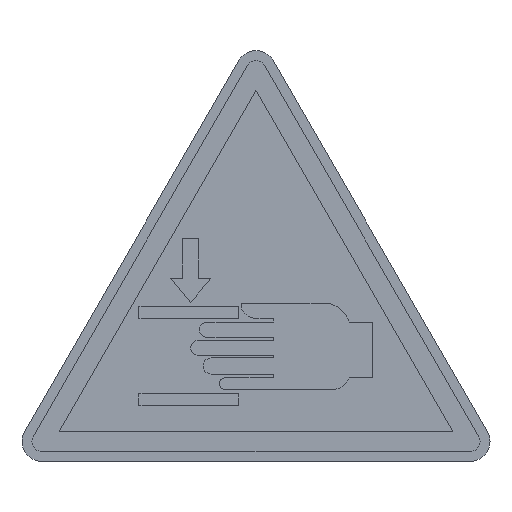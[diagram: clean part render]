
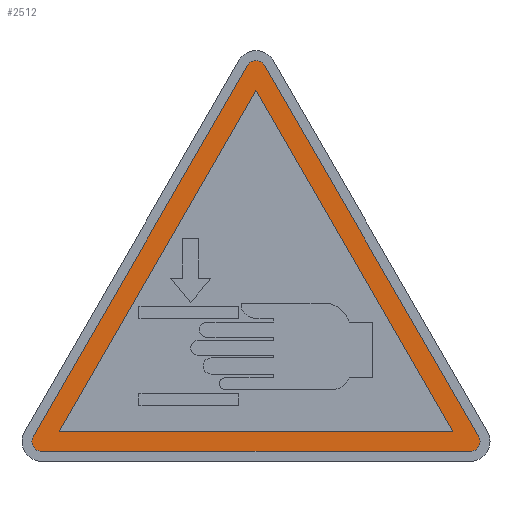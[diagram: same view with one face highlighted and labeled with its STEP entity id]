
A CAD part, top view. The second image highlights one B-rep face of the part: STEP entity #2512.
In plain terms, the highlighted planar face has unit normal (0, 0, 1).
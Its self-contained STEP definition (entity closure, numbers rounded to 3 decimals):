
#15 = DIRECTION ( 'NONE',  ( 1., 0., 0. ) ) ;
#37 = CARTESIAN_POINT ( 'NONE',  ( 19.804, 3., 0.22 ) ) ;
#87 = VECTOR ( 'NONE', #1439, 1000. ) ;
#97 = EDGE_CURVE ( 'NONE', #752, #2294, #1197, .T. ) ;
#133 = ORIENTED_EDGE ( 'NONE', *, *, #561, .F. ) ;
#136 = AXIS2_PLACEMENT_3D ( 'NONE', #1608, #2797, #1100 ) ;
#148 = CARTESIAN_POINT ( 'NONE',  ( 0., 39.301, 0.22 ) ) ;
#150 = EDGE_LOOP ( 'NONE', ( #2116, #2866, #2333, #2376, #309, #934, #1315 ) ) ;
#205 = CARTESIAN_POINT ( 'NONE',  ( -21.536, 1., 0.22 ) ) ;
#234 = LINE ( 'NONE', #653, #1070 ) ;
#271 = EDGE_CURVE ( 'NONE', #2827, #1780, #765, .T. ) ;
#309 = ORIENTED_EDGE ( 'NONE', *, *, #2747, .T. ) ;
#421 = DIRECTION ( 'NONE',  ( 1., 0., 0. ) ) ;
#428 = CARTESIAN_POINT ( 'NONE',  ( 21.536, 1., 0.22 ) ) ;
#454 = EDGE_CURVE ( 'NONE', #647, #2367, #1473, .T. ) ;
#471 = ORIENTED_EDGE ( 'NONE', *, *, #97, .F. ) ;
#485 = DIRECTION ( 'NONE',  ( -0.5, -0.866, 0. ) ) ;
#502 = AXIS2_PLACEMENT_3D ( 'NONE', #148, #2043, #421 ) ;
#510 = DIRECTION ( 'NONE',  ( 1., 0., 0. ) ) ;
#515 = CARTESIAN_POINT ( 'NONE',  ( 22.402, 2.5, 0.22 ) ) ;
#524 = CARTESIAN_POINT ( 'NONE',  ( 0., 37.301, 0.22 ) ) ;
#548 = VERTEX_POINT ( 'NONE', #1186 ) ;
#561 = EDGE_CURVE ( 'NONE', #2294, #1170, #1506, .T. ) ;
#647 = VERTEX_POINT ( 'NONE', #2964 ) ;
#653 = CARTESIAN_POINT ( 'NONE',  ( -0.866, 39.801, 0.22 ) ) ;
#660 = CIRCLE ( 'NONE', #1963, 1. ) ;
#732 = VERTEX_POINT ( 'NONE', #1679 ) ;
#752 = VERTEX_POINT ( 'NONE', #1637 ) ;
#760 = EDGE_LOOP ( 'NONE', ( #133, #471, #2007 ) ) ;
#764 = DIRECTION ( 'NONE',  ( -0.5, 0.866, 0. ) ) ;
#765 = CIRCLE ( 'NONE', #1622, 1. ) ;
#881 = VECTOR ( 'NONE', #1835, 1000. ) ;
#918 = EDGE_CURVE ( 'NONE', #1170, #752, #2895, .T. ) ;
#934 = ORIENTED_EDGE ( 'NONE', *, *, #1384, .T. ) ;
#1031 = CARTESIAN_POINT ( 'NONE',  ( -21.536, 2., 0.22 ) ) ;
#1070 = VECTOR ( 'NONE', #1883, 1000. ) ;
#1100 = DIRECTION ( 'NONE',  ( 1., 0., 0. ) ) ;
#1147 = EDGE_CURVE ( 'NONE', #732, #647, #1721, .T. ) ;
#1170 = VERTEX_POINT ( 'NONE', #2912 ) ;
#1181 = VECTOR ( 'NONE', #764, 1000. ) ;
#1186 = CARTESIAN_POINT ( 'NONE',  ( -22.402, 2.5, 0.22 ) ) ;
#1197 = LINE ( 'NONE', #524, #1762 ) ;
#1236 = DIRECTION ( 'NONE',  ( 1., 0., 0. ) ) ;
#1315 = ORIENTED_EDGE ( 'NONE', *, *, #1147, .T. ) ;
#1352 = CARTESIAN_POINT ( 'NONE',  ( 0., 39.301, 0.22 ) ) ;
#1384 = EDGE_CURVE ( 'NONE', #2052, #732, #2908, .T. ) ;
#1439 = DIRECTION ( 'NONE',  ( -0.5, 0.866, 0. ) ) ;
#1473 = CIRCLE ( 'NONE', #3060, 1. ) ;
#1506 = LINE ( 'NONE', #2449, #2068 ) ;
#1563 = DIRECTION ( 'NONE',  ( 0., 0., 1. ) ) ;
#1599 = CARTESIAN_POINT ( 'NONE',  ( -21.536, 1., 0.22 ) ) ;
#1608 = CARTESIAN_POINT ( 'NONE',  ( 21.536, 2., 0.22 ) ) ;
#1622 = AXIS2_PLACEMENT_3D ( 'NONE', #1031, #1688, #1236 ) ;
#1637 = CARTESIAN_POINT ( 'NONE',  ( 0., 37.301, 0.22 ) ) ;
#1679 = CARTESIAN_POINT ( 'NONE',  ( 22.402, 2.5, 0.22 ) ) ;
#1688 = DIRECTION ( 'NONE',  ( 0., 0., 1. ) ) ;
#1721 = LINE ( 'NONE', #515, #87 ) ;
#1762 = VECTOR ( 'NONE', #485, 1000. ) ;
#1780 = VERTEX_POINT ( 'NONE', #1599 ) ;
#1807 = FACE_OUTER_BOUND ( 'NONE', #150, .T. ) ;
#1835 = DIRECTION ( 'NONE',  ( 1., 0., 0. ) ) ;
#1840 = DIRECTION ( 'NONE',  ( 1., 0., 0. ) ) ;
#1883 = DIRECTION ( 'NONE',  ( -0.5, -0.866, 0. ) ) ;
#1906 = CARTESIAN_POINT ( 'NONE',  ( -21.536, 2., 0.22 ) ) ;
#1921 = DIRECTION ( 'NONE',  ( 0., 0., 1. ) ) ;
#1963 = AXIS2_PLACEMENT_3D ( 'NONE', #1906, #1921, #15 ) ;
#2007 = ORIENTED_EDGE ( 'NONE', *, *, #918, .F. ) ;
#2043 = DIRECTION ( 'NONE',  ( 0., 0., 1. ) ) ;
#2052 = VERTEX_POINT ( 'NONE', #428 ) ;
#2068 = VECTOR ( 'NONE', #510, 1000. ) ;
#2093 = CARTESIAN_POINT ( 'NONE',  ( -22.536, 2., 0.22 ) ) ;
#2116 = ORIENTED_EDGE ( 'NONE', *, *, #454, .T. ) ;
#2265 = PLANE ( 'NONE',  #502 ) ;
#2294 = VERTEX_POINT ( 'NONE', #2828 ) ;
#2315 = FACE_BOUND ( 'NONE', #760, .T. ) ;
#2329 = EDGE_CURVE ( 'NONE', #548, #2827, #660, .T. ) ;
#2333 = ORIENTED_EDGE ( 'NONE', *, *, #2329, .T. ) ;
#2367 = VERTEX_POINT ( 'NONE', #2689 ) ;
#2376 = ORIENTED_EDGE ( 'NONE', *, *, #271, .T. ) ;
#2449 = CARTESIAN_POINT ( 'NONE',  ( -19.804, 3., 0.22 ) ) ;
#2512 = ADVANCED_FACE ( 'NONE', ( #1807, #2315 ), #2265, .T. ) ;
#2689 = CARTESIAN_POINT ( 'NONE',  ( -0.866, 39.801, 0.22 ) ) ;
#2747 = EDGE_CURVE ( 'NONE', #1780, #2052, #2802, .T. ) ;
#2784 = EDGE_CURVE ( 'NONE', #2367, #548, #234, .T. ) ;
#2797 = DIRECTION ( 'NONE',  ( 0., 0., 1. ) ) ;
#2802 = LINE ( 'NONE', #205, #881 ) ;
#2827 = VERTEX_POINT ( 'NONE', #2093 ) ;
#2828 = CARTESIAN_POINT ( 'NONE',  ( -19.804, 3., 0.22 ) ) ;
#2866 = ORIENTED_EDGE ( 'NONE', *, *, #2784, .T. ) ;
#2895 = LINE ( 'NONE', #37, #1181 ) ;
#2908 = CIRCLE ( 'NONE', #136, 1. ) ;
#2912 = CARTESIAN_POINT ( 'NONE',  ( 19.804, 3., 0.22 ) ) ;
#2964 = CARTESIAN_POINT ( 'NONE',  ( 0.866, 39.801, 0.22 ) ) ;
#3060 = AXIS2_PLACEMENT_3D ( 'NONE', #1352, #1563, #1840 ) ;
